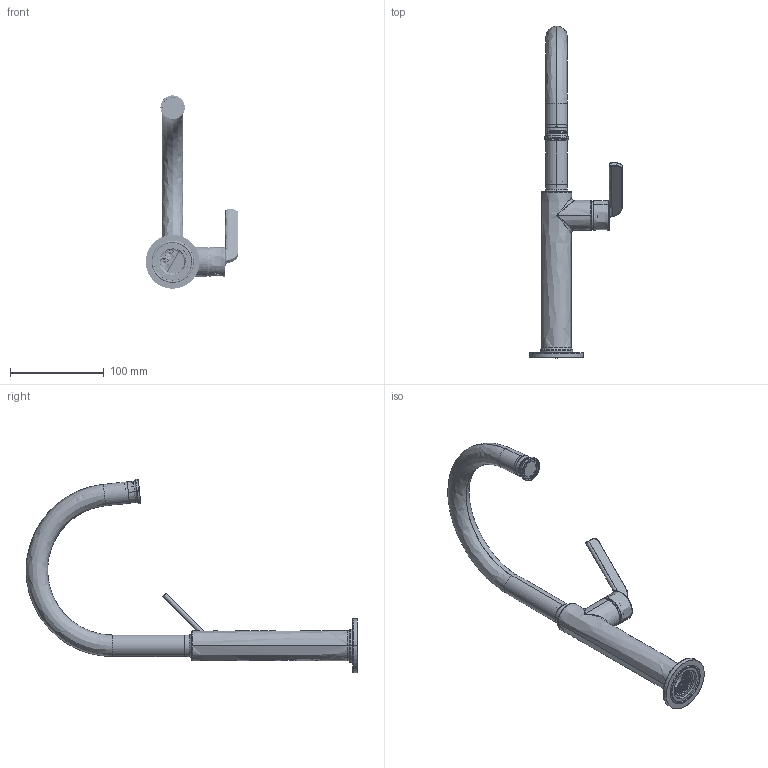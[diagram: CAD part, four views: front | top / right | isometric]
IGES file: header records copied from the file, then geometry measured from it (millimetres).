
Start section: SolidWorks IGES file using analytic representation for surfaces
Global section: file name: C:\Users\ccai\Desktop\CeliaC\Projects\0731-ADHOC-02292 Netural Files\sku_AUL01SERIES_\sku_aul01series_igs.IGS; native system: SolidWorks 2023; preprocessor: SolidWorks 2023; author: ccai; date: 240726.105927; units: inch
Bounding box: 98.97 x 354.87 x 206.73 mm (x, y, z)
Surface area: 124263.3 mm2 (no closed solid volume)
Topology: 0 solids, 0 shells, 2002 faces, 20656 edges, 20582 vertices
Faces by surface type: revolution 1001, bspline 1001
